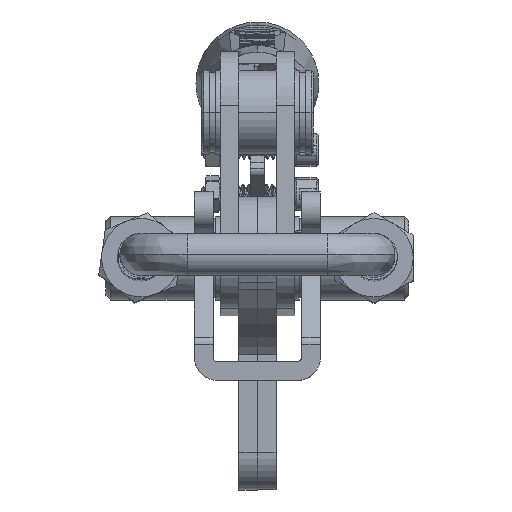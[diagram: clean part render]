
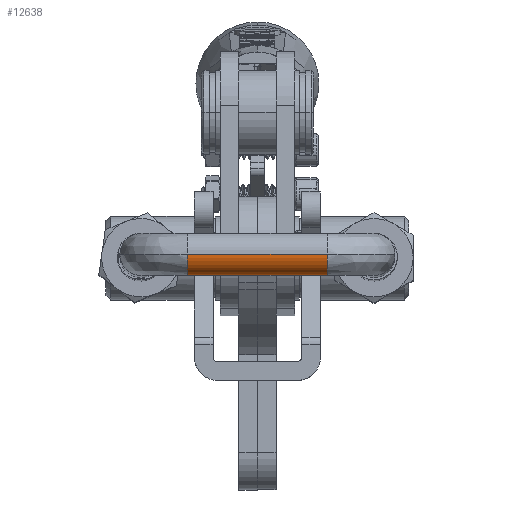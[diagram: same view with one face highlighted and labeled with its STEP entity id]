
A CAD part, left-side view. The second image highlights one B-rep face of the part: STEP entity #12638.
In plain terms, the highlighted cylindrical face has radius 4.5 mm (diameter 9 mm), a partial arc.
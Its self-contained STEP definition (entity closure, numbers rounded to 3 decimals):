
#1055 = AXIS2_PLACEMENT_3D ( 'NONE', #8134, #4265, #37702 ) ;
#1087 = EDGE_LOOP ( 'NONE', ( #8470, #39943, #44937, #33723 ) ) ;
#2233 = CARTESIAN_POINT ( 'NONE',  ( 4.5, 0., -15. ) ) ;
#4265 = DIRECTION ( 'NONE',  ( 0., 0., 1. ) ) ;
#5349 = AXIS2_PLACEMENT_3D ( 'NONE', #11366, #22471, #19337 ) ;
#5983 = VERTEX_POINT ( 'NONE', #2233 ) ;
#7714 = DIRECTION ( 'NONE',  ( 0., 0., -1. ) ) ;
#8134 = CARTESIAN_POINT ( 'NONE',  ( 0., 0., -15. ) ) ;
#8331 = EDGE_CURVE ( 'NONE', #15419, #24439, #44880, .T. ) ;
#8470 = ORIENTED_EDGE ( 'NONE', *, *, #8331, .F. ) ;
#9245 = VERTEX_POINT ( 'NONE', #46174 ) ;
#10471 = EDGE_CURVE ( 'NONE', #5983, #9245, #32144, .T. ) ;
#11353 = DIRECTION ( 'NONE',  ( 1., 0., 0. ) ) ;
#11366 = CARTESIAN_POINT ( 'NONE',  ( 0., 0., -15. ) ) ;
#12638 = ADVANCED_FACE ( 'NONE', ( #44744 ), #29695, .T. ) ;
#15419 = VERTEX_POINT ( 'NONE', #44567 ) ;
#15517 = EDGE_CURVE ( 'NONE', #9245, #24439, #23575, .T. ) ;
#16173 = CIRCLE ( 'NONE', #5349, 4.5 ) ;
#16594 = AXIS2_PLACEMENT_3D ( 'NONE', #26586, #7714, #11353 ) ;
#17374 = CARTESIAN_POINT ( 'NONE',  ( 4.5, 0., -15. ) ) ;
#19337 = DIRECTION ( 'NONE',  ( -1., 0., 0. ) ) ;
#22471 = DIRECTION ( 'NONE',  ( 0., 0., -1. ) ) ;
#23575 = CIRCLE ( 'NONE', #16594, 4.5 ) ;
#24439 = VERTEX_POINT ( 'NONE', #39789 ) ;
#26586 = CARTESIAN_POINT ( 'NONE',  ( 0., 0., 15. ) ) ;
#26680 = CARTESIAN_POINT ( 'NONE',  ( -4.5, 0., -15. ) ) ;
#27159 = DIRECTION ( 'NONE',  ( 0., 0., 1. ) ) ;
#29695 = CYLINDRICAL_SURFACE ( 'NONE', #1055, 4.5 ) ;
#32144 = LINE ( 'NONE', #17374, #35001 ) ;
#32597 = VECTOR ( 'NONE', #27159, 1000. ) ;
#33723 = ORIENTED_EDGE ( 'NONE', *, *, #15517, .T. ) ;
#35001 = VECTOR ( 'NONE', #46942, 1000. ) ;
#37702 = DIRECTION ( 'NONE',  ( 1., 0., 0. ) ) ;
#39789 = CARTESIAN_POINT ( 'NONE',  ( -4.5, 0., 15. ) ) ;
#39943 = ORIENTED_EDGE ( 'NONE', *, *, #43967, .F. ) ;
#43967 = EDGE_CURVE ( 'NONE', #5983, #15419, #16173, .T. ) ;
#44567 = CARTESIAN_POINT ( 'NONE',  ( -4.5, 0., -15. ) ) ;
#44744 = FACE_OUTER_BOUND ( 'NONE', #1087, .T. ) ;
#44880 = LINE ( 'NONE', #26680, #32597 ) ;
#44937 = ORIENTED_EDGE ( 'NONE', *, *, #10471, .T. ) ;
#46174 = CARTESIAN_POINT ( 'NONE',  ( 4.5, 0., 15. ) ) ;
#46942 = DIRECTION ( 'NONE',  ( 0., 0., 1. ) ) ;
